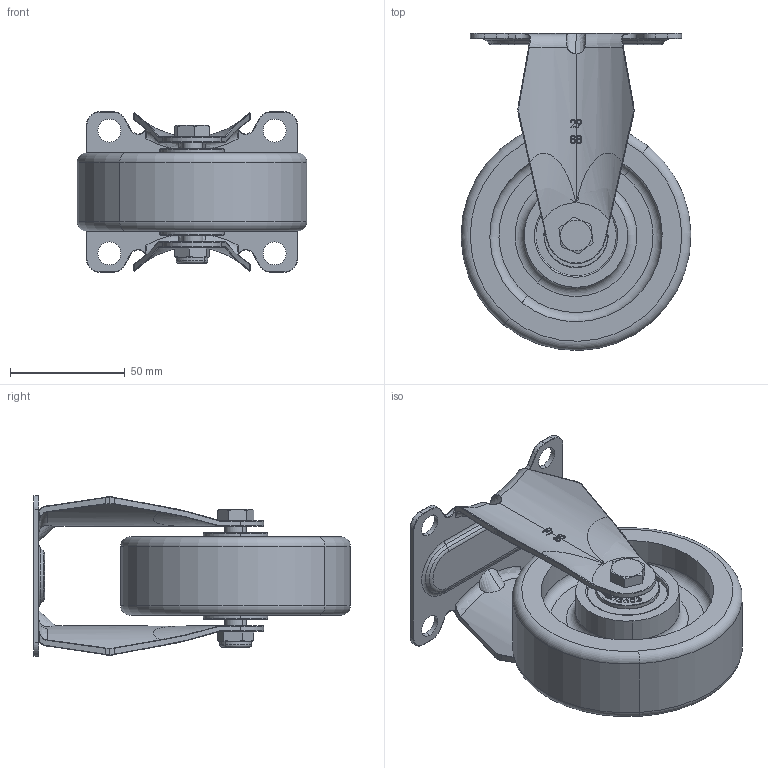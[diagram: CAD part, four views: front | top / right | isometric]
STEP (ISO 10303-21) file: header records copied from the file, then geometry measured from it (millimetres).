
FILE_DESCRIPTION (( 'STEP AP203' ), '1' );
FILE_NAME ('4112904001013-7.STEP', '2024-12-26T06:22:33', ( '' ), ( '' ), 'SwSTEP 2.0', 'SolidWorks 2019', '' );
FILE_SCHEMA (( 'CONFIG_CONTROL_DESIGN' ));
Length unit declared in the file: millimetre
Products named in the file (6): 245020900003 尼龍螺帽  3 8''''(對邊14x7L); 242020954001 4''''.5''''儀器.高級活動用車心 20240124A8; 展示輪; 4112904001013-7; 4206281501 塑料T型POM套管A (28x15+2.25x15x10.3)黑 ; 32129010400001 29系列固定架-電鍍 4''''(29-88)圓孔(孔距53x72)+2.3t
Assembly tree (6 placements, depth 2):
  4112904001013-7
    242020954001 4''''.5''''儀器.高級活動用車心 20240124A8
    245020900003 尼龍螺帽  3 8''''(對邊14x7L)
    展示輪
    4206281501 塑料T型POM套管A (28x15+2.25x15x10.3)黑   x2
    32129010400001 29系列固定架-電鍍 4''''(29-88)圓孔(孔距53x72)+2.3t
Bounding box: 100.09 x 138.05 x 70 mm (x, y, z)
Volume: 215373.1 mm3; surface area: 72142.3 mm2
Topology: 6 solids, 6 shells, 838 faces, 2164 edges, 1391 vertices
Faces by surface type: plane 306, bspline 222, cylinder 178, torus 74, cone 48, sphere 10
Entity records: 28249 total; most frequent: CARTESIAN_POINT 14309, ORIENTED_EDGE 3002, DIRECTION 2425, EDGE_CURVE 1501, VERTEX_POINT 963, AXIS2_PLACEMENT_3D 909, EDGE_LOOP 654, LINE 607
